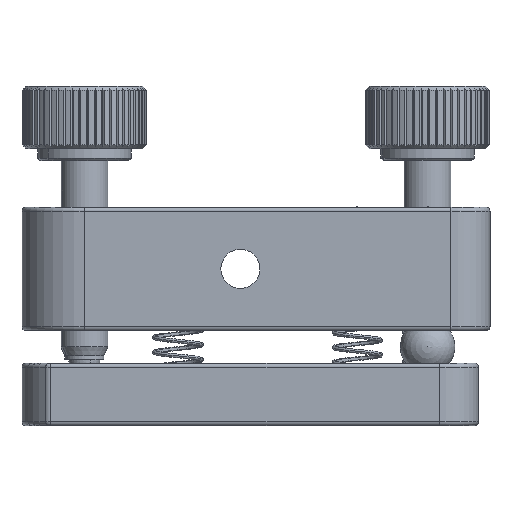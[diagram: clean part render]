
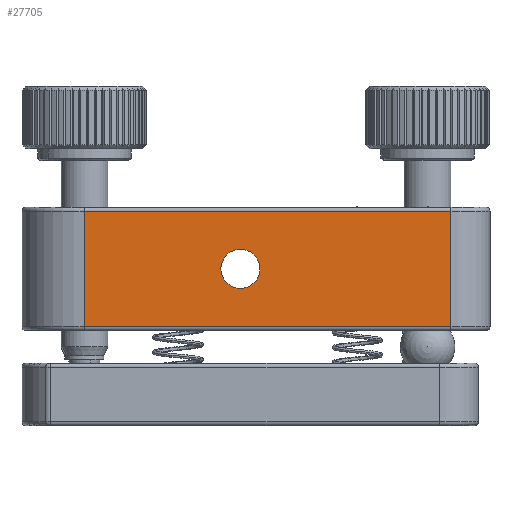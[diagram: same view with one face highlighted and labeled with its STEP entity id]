
A CAD part, front view. The second image highlights one B-rep face of the part: STEP entity #27705.
In plain terms, the highlighted planar face has unit normal (0, -1, 0).
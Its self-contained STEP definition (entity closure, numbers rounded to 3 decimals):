
#913 = EDGE_CURVE ( 'NONE', #34902, #19921, #30994, .T. ) ;
#990 = LINE ( 'NONE', #12264, #26424 ) ;
#2413 = FACE_OUTER_BOUND ( 'NONE', #3155, .T. ) ;
#3155 = EDGE_LOOP ( 'NONE', ( #23093, #31708, #33711, #32796 ) ) ;
#4797 = CIRCLE ( 'NONE', #25435, 2.5 ) ;
#5327 = CARTESIAN_POINT ( 'NONE',  ( 56.456, -1.5, 12.7 ) ) ;
#5719 = CARTESIAN_POINT ( 'NONE',  ( 36.456, -1.5, 28. ) ) ;
#6254 = EDGE_CURVE ( 'NONE', #22547, #8616, #4797, .T. ) ;
#8303 = LINE ( 'NONE', #19563, #32342 ) ;
#8335 = EDGE_LOOP ( 'NONE', ( #20427, #29093 ) ) ;
#8409 = CARTESIAN_POINT ( 'NONE',  ( 56.456, -1.5, 17.6 ) ) ;
#8616 = VERTEX_POINT ( 'NONE', #8409 ) ;
#9299 = DIRECTION ( 'NONE',  ( 0., -1., 0. ) ) ;
#9330 = EDGE_CURVE ( 'NONE', #14467, #19057, #8303, .T. ) ;
#9794 = DIRECTION ( 'NONE',  ( 0., -1., 0. ) ) ;
#10915 = DIRECTION ( 'NONE',  ( 0., 0., 1. ) ) ;
#12264 = CARTESIAN_POINT ( 'NONE',  ( 36.456, -1.5, 27.5 ) ) ;
#13691 = PLANE ( 'NONE',  #31474 ) ;
#14467 = VERTEX_POINT ( 'NONE', #24468 ) ;
#15053 = AXIS2_PLACEMENT_3D ( 'NONE', #35070, #9794, #21054 ) ;
#15375 = CARTESIAN_POINT ( 'NONE',  ( 36.456, -1.5, 27.5 ) ) ;
#15424 = VECTOR ( 'NONE', #16604, 1000. ) ;
#16604 = DIRECTION ( 'NONE',  ( 1., 0., 0. ) ) ;
#16865 = EDGE_CURVE ( 'NONE', #8616, #22547, #30936, .T. ) ;
#16984 = DIRECTION ( 'NONE',  ( 0., 0., -1. ) ) ;
#19057 = VERTEX_POINT ( 'NONE', #31044 ) ;
#19563 = CARTESIAN_POINT ( 'NONE',  ( 83.456, -1.5, 28. ) ) ;
#19921 = VERTEX_POINT ( 'NONE', #26954 ) ;
#20427 = ORIENTED_EDGE ( 'NONE', *, *, #16865, .F. ) ;
#20559 = DIRECTION ( 'NONE',  ( 0., 0., -1. ) ) ;
#20682 = EDGE_CURVE ( 'NONE', #14467, #34902, #990, .T. ) ;
#21054 = DIRECTION ( 'NONE',  ( 0., 0., -1. ) ) ;
#22131 = LINE ( 'NONE', #5327, #15424 ) ;
#22547 = VERTEX_POINT ( 'NONE', #33335 ) ;
#23093 = ORIENTED_EDGE ( 'NONE', *, *, #913, .T. ) ;
#23516 = DIRECTION ( 'NONE',  ( -1., 0., 0. ) ) ;
#24170 = VECTOR ( 'NONE', #16984, 1000. ) ;
#24468 = CARTESIAN_POINT ( 'NONE',  ( 83.456, -1.5, 27.5 ) ) ;
#24927 = CARTESIAN_POINT ( 'NONE',  ( 56.456, -1.5, 28. ) ) ;
#25435 = AXIS2_PLACEMENT_3D ( 'NONE', #34571, #9299, #20559 ) ;
#26424 = VECTOR ( 'NONE', #23516, 1000. ) ;
#26954 = CARTESIAN_POINT ( 'NONE',  ( 36.456, -1.5, 12.7 ) ) ;
#27694 = FACE_BOUND ( 'NONE', #8335, .T. ) ;
#27705 = ADVANCED_FACE ( 'NONE', ( #27694, #2413 ), #13691, .F. ) ;
#29093 = ORIENTED_EDGE ( 'NONE', *, *, #6254, .F. ) ;
#30802 = DIRECTION ( 'NONE',  ( 0., 0., -1. ) ) ;
#30936 = CIRCLE ( 'NONE', #15053, 2.5 ) ;
#30994 = LINE ( 'NONE', #5719, #24170 ) ;
#31044 = CARTESIAN_POINT ( 'NONE',  ( 83.456, -1.5, 12.7 ) ) ;
#31474 = AXIS2_PLACEMENT_3D ( 'NONE', #24927, #36189, #10915 ) ;
#31708 = ORIENTED_EDGE ( 'NONE', *, *, #35689, .T. ) ;
#32342 = VECTOR ( 'NONE', #30802, 1000. ) ;
#32796 = ORIENTED_EDGE ( 'NONE', *, *, #20682, .T. ) ;
#33335 = CARTESIAN_POINT ( 'NONE',  ( 56.456, -1.5, 22.6 ) ) ;
#33711 = ORIENTED_EDGE ( 'NONE', *, *, #9330, .F. ) ;
#34571 = CARTESIAN_POINT ( 'NONE',  ( 56.456, -1.5, 20.1 ) ) ;
#34902 = VERTEX_POINT ( 'NONE', #15375 ) ;
#35070 = CARTESIAN_POINT ( 'NONE',  ( 56.456, -1.5, 20.1 ) ) ;
#35689 = EDGE_CURVE ( 'NONE', #19921, #19057, #22131, .T. ) ;
#36189 = DIRECTION ( 'NONE',  ( 0., 1., 0. ) ) ;
